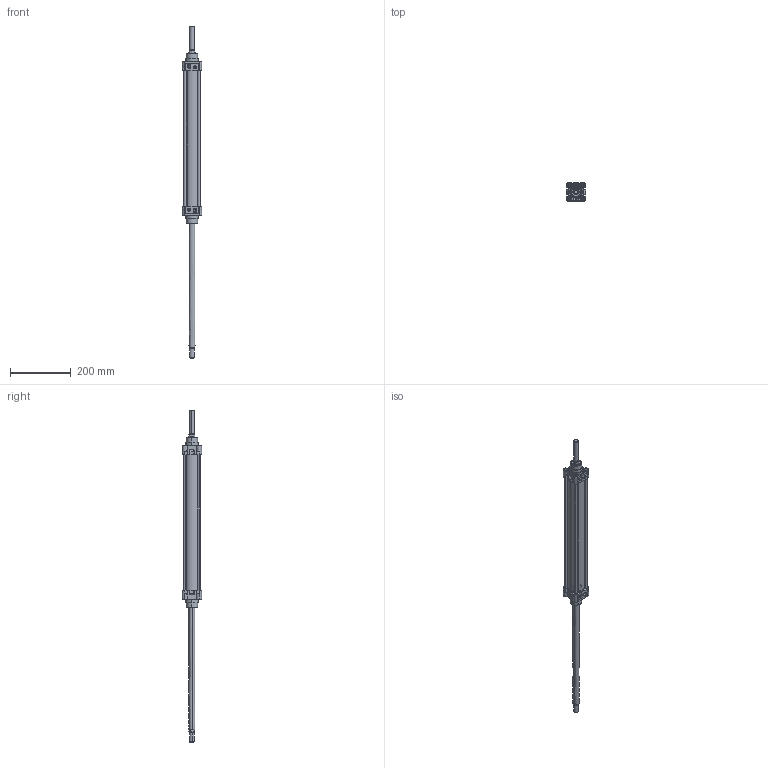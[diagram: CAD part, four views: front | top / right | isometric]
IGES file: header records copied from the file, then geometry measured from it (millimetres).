
Start section: SolidWorks IGES file using analytic representation for surfaces
Global section: file name: D:\ARICA 3D ﾇﾝZﾝMLER\3D IGES\TDNC ﾇﾝFT MﾝLLﾝ STROK AYARLI\TDNC50 STROK AYARLI\TDNC50X400CIFTMILLI-STROK AYARLI-CYLINDER.IGS; native system: SolidWorks 2013; preprocessor: SolidWorks 2013; author: user; date: 160406.090928; units: millimetre
Bounding box: 64 x 64.3 x 1091.9 mm (x, y, z)
Surface area: 384807 mm2 (no closed solid volume)
Topology: 0 solids, 0 shells, 1065 faces, 16981 edges, 16973 vertices
Faces by surface type: revolution 533, bspline 532
